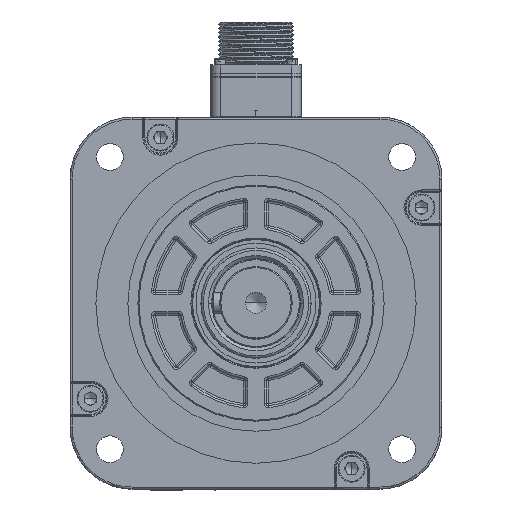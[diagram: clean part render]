
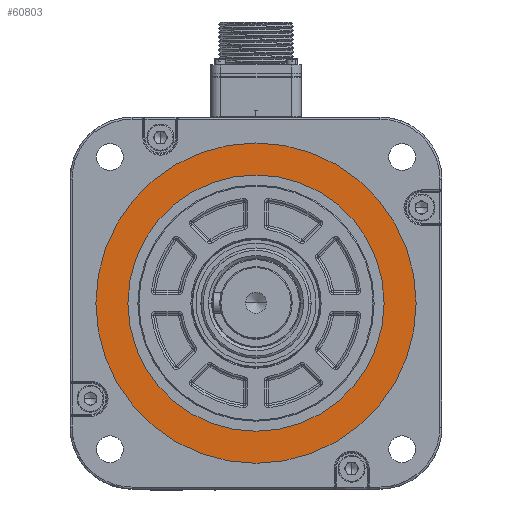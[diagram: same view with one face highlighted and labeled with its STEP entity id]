
A CAD part, top view. The second image highlights one B-rep face of the part: STEP entity #60803.
In plain terms, the highlighted planar face has unit normal (0, 0, 1) as drawn and (0, 0, -1) by its records, which use the part's own axes.
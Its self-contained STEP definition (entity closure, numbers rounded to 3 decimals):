
#2882 = FACE_BOUND ( 'NONE', #63218, .T. ) ;
#8052 = CIRCLE ( 'NONE', #48830, 62. ) ;
#10289 = ORIENTED_EDGE ( 'NONE', *, *, #116821, .T. ) ;
#12630 = ORIENTED_EDGE ( 'NONE', *, *, #160283, .T. ) ;
#13521 = VERTEX_POINT ( 'NONE', #51025 ) ;
#13969 = DIRECTION ( 'NONE',  ( -1., 0., 0. ) ) ;
#14652 = CARTESIAN_POINT ( 'NONE',  ( 0., 0., 1.5 ) ) ;
#26402 = DIRECTION ( 'NONE',  ( -1., 0., 0. ) ) ;
#27588 = ORIENTED_EDGE ( 'NONE', *, *, #55385, .T. ) ;
#30172 = FACE_OUTER_BOUND ( 'NONE', #57149, .T. ) ;
#42311 = ORIENTED_EDGE ( 'NONE', *, *, #144055, .T. ) ;
#47443 = CIRCLE ( 'NONE', #58081, 77.5 ) ;
#48830 = AXIS2_PLACEMENT_3D ( 'NONE', #50985, #76129, #13969 ) ;
#50985 = CARTESIAN_POINT ( 'NONE',  ( 0., 0., 1.5 ) ) ;
#51025 = CARTESIAN_POINT ( 'NONE',  ( 77.5, 0., 1.5 ) ) ;
#53454 = CIRCLE ( 'NONE', #150342, 62. ) ;
#55385 = EDGE_CURVE ( 'NONE', #99089, #13521, #47443, .T. ) ;
#57149 = EDGE_LOOP ( 'NONE', ( #27588, #12630 ) ) ;
#58081 = AXIS2_PLACEMENT_3D ( 'NONE', #61727, #109174, #159107 ) ;
#60803 = ADVANCED_FACE ( 'NONE', ( #2882, #30172 ), #105213, .T. ) ;
#61727 = CARTESIAN_POINT ( 'NONE',  ( 0., 0., 1.5 ) ) ;
#63218 = EDGE_LOOP ( 'NONE', ( #42311, #10289 ) ) ;
#64335 = DIRECTION ( 'NONE',  ( -1., 0., 0. ) ) ;
#76129 = DIRECTION ( 'NONE',  ( 0., 0., 1. ) ) ;
#82299 = CARTESIAN_POINT ( 'NONE',  ( 0., 0., 1.5 ) ) ;
#91517 = DIRECTION ( 'NONE',  ( 0., 0., -1. ) ) ;
#93201 = DIRECTION ( 'NONE',  ( -1., 0., 0. ) ) ;
#99089 = VERTEX_POINT ( 'NONE', #113072 ) ;
#101146 = DIRECTION ( 'NONE',  ( 0., 0., 1. ) ) ;
#105213 = PLANE ( 'NONE',  #136867 ) ;
#109174 = DIRECTION ( 'NONE',  ( 0., 0., -1. ) ) ;
#110451 = CIRCLE ( 'NONE', #118530, 77.5 ) ;
#113072 = CARTESIAN_POINT ( 'NONE',  ( -77.5, 0., 1.5 ) ) ;
#116821 = EDGE_CURVE ( 'NONE', #118471, #128400, #53454, .T. ) ;
#118471 = VERTEX_POINT ( 'NONE', #122897 ) ;
#118530 = AXIS2_PLACEMENT_3D ( 'NONE', #14652, #91517, #64335 ) ;
#122897 = CARTESIAN_POINT ( 'NONE',  ( 62., 0., 1.5 ) ) ;
#128400 = VERTEX_POINT ( 'NONE', #157329 ) ;
#136867 = AXIS2_PLACEMENT_3D ( 'NONE', #82299, #155632, #93201 ) ;
#144055 = EDGE_CURVE ( 'NONE', #128400, #118471, #8052, .T. ) ;
#150342 = AXIS2_PLACEMENT_3D ( 'NONE', #150530, #101146, #26402 ) ;
#150530 = CARTESIAN_POINT ( 'NONE',  ( 0., 0., 1.5 ) ) ;
#155632 = DIRECTION ( 'NONE',  ( 0., 0., -1. ) ) ;
#157329 = CARTESIAN_POINT ( 'NONE',  ( -62., 0., 1.5 ) ) ;
#159107 = DIRECTION ( 'NONE',  ( -1., 0., 0. ) ) ;
#160283 = EDGE_CURVE ( 'NONE', #13521, #99089, #110451, .T. ) ;
